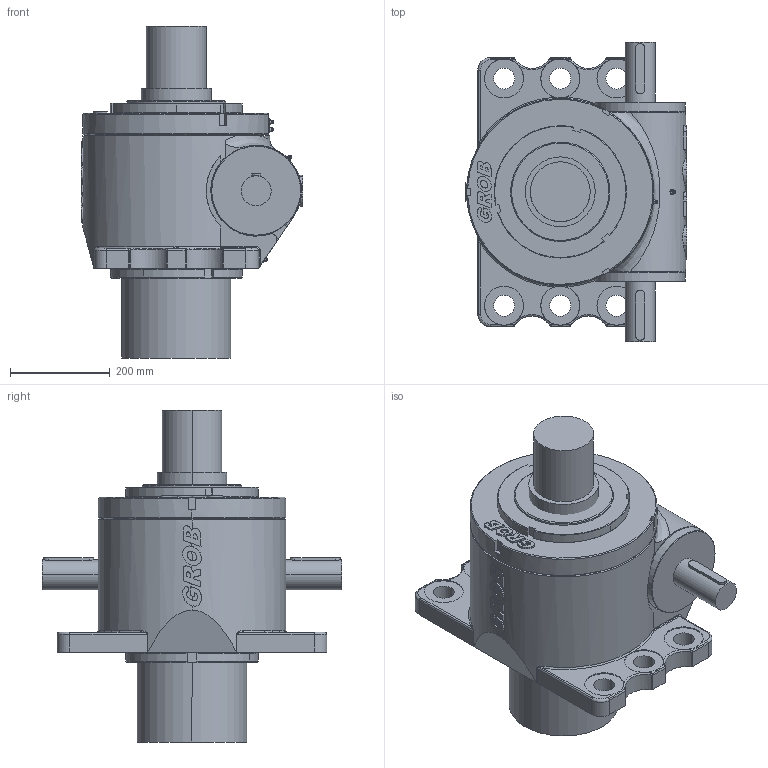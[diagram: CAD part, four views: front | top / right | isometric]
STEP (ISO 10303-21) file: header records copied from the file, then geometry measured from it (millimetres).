
FILE_DESCRIPTION(('STEP AP203'),'1');
FILE_NAME('mc75-gn-f-1f-ge-0100-0000-tr140x20-ab-o_0.stp','2023-12-18T13:33:36',('TraceParts'),('TraceParts S.A.'),'Spatial InterOp 3D',' ',' ');
FILE_SCHEMA(('CONFIG_CONTROL_DESIGN'));
Length unit declared in the file: millimetre
Products named in the file (1): 1
Bounding box: 443 x 600 x 665 mm (x, y, z)
Volume: 61298159.1 mm3; surface area: 1491435.7 mm2
Topology: 3 solids, 3 shells, 717 faces, 1917 edges, 1221 vertices
Faces by surface type: cylinder 307, plane 203, cone 118, bspline 61, torus 18, sphere 10
Entity records: 26168 total; most frequent: CARTESIAN_POINT 8697, ORIENTED_EDGE 3794, DIRECTION 3625, EDGE_CURVE 1897, AXIS2_PLACEMENT_3D 1430, VERTEX_POINT 1221, LINE 765, VECTOR 765
